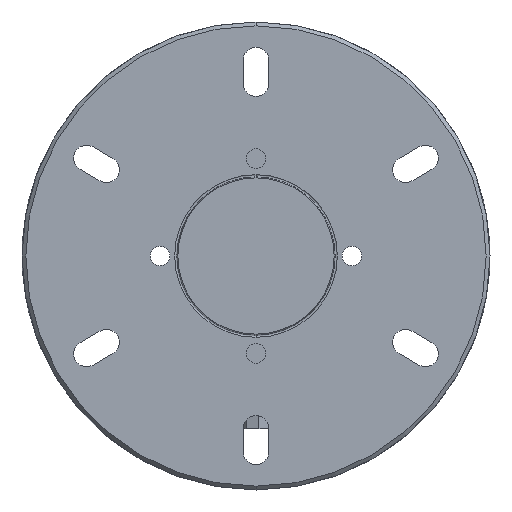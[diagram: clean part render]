
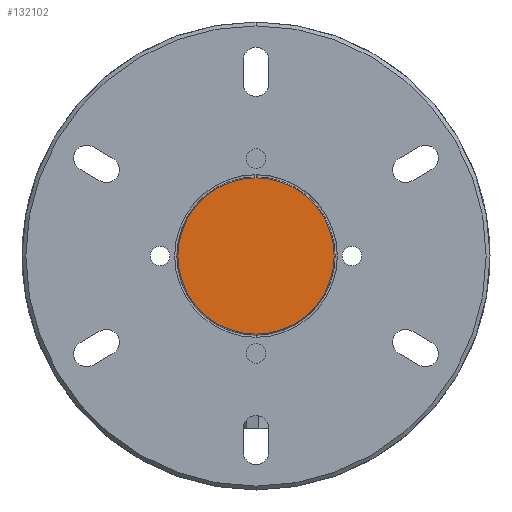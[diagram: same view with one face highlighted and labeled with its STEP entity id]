
A CAD part, front view. The second image highlights one B-rep face of the part: STEP entity #132102.
In plain terms, the highlighted planar face has unit normal (0, -1, 0).
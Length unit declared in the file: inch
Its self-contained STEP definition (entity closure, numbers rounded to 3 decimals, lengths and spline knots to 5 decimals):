
#3838 = EDGE_CURVE ( 'NONE', #116528, #78267, #156834, .T. ) ;
#10695 = CARTESIAN_POINT ( 'NONE',  ( 0., -0.3937, 1.60341 ) ) ;
#10700 = EDGE_LOOP ( 'NONE', ( #22132, #29748 ) ) ;
#11101 = DIRECTION ( 'NONE',  ( 0., 0., -1. ) ) ;
#22132 = ORIENTED_EDGE ( 'NONE', *, *, #3838, .T. ) ;
#29748 = ORIENTED_EDGE ( 'NONE', *, *, #42202, .T. ) ;
#31073 = CARTESIAN_POINT ( 'NONE',  ( 0., -0.3937, -1.60341 ) ) ;
#31874 = CARTESIAN_POINT ( 'NONE',  ( 0., -0.3937, 0. ) ) ;
#38309 = DIRECTION ( 'NONE',  ( 0., -1., 0. ) ) ;
#39202 = CARTESIAN_POINT ( 'NONE',  ( 0., -0.3937, 0. ) ) ;
#42202 = EDGE_CURVE ( 'NONE', #78267, #116528, #78164, .T. ) ;
#45487 = DIRECTION ( 'NONE',  ( 0., 0., -1. ) ) ;
#45655 = AXIS2_PLACEMENT_3D ( 'NONE', #88338, #38309, #11101 ) ;
#50428 = PLANE ( 'NONE',  #45655 ) ;
#67378 = DIRECTION ( 'NONE',  ( 0., -1., 0. ) ) ;
#78164 = CIRCLE ( 'NONE', #116781, 1.60341 ) ;
#78267 = VERTEX_POINT ( 'NONE', #31073 ) ;
#88338 = CARTESIAN_POINT ( 'NONE',  ( 0., -0.3937, 0. ) ) ;
#111678 = FACE_OUTER_BOUND ( 'NONE', #10700, .T. ) ;
#116528 = VERTEX_POINT ( 'NONE', #10695 ) ;
#116781 = AXIS2_PLACEMENT_3D ( 'NONE', #31874, #121248, #45487 ) ;
#121248 = DIRECTION ( 'NONE',  ( 0., -1., 0. ) ) ;
#132102 = ADVANCED_FACE ( 'NONE', ( #111678 ), #50428, .T. ) ;
#154318 = AXIS2_PLACEMENT_3D ( 'NONE', #39202, #67378, #155100 ) ;
#155100 = DIRECTION ( 'NONE',  ( 0., 0., -1. ) ) ;
#156834 = CIRCLE ( 'NONE', #154318, 1.60341 ) ;
